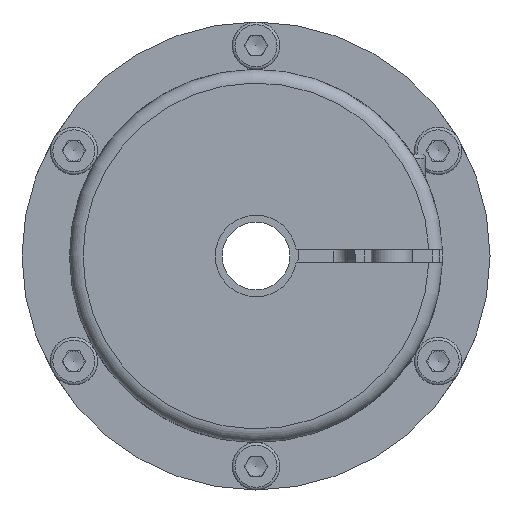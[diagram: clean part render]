
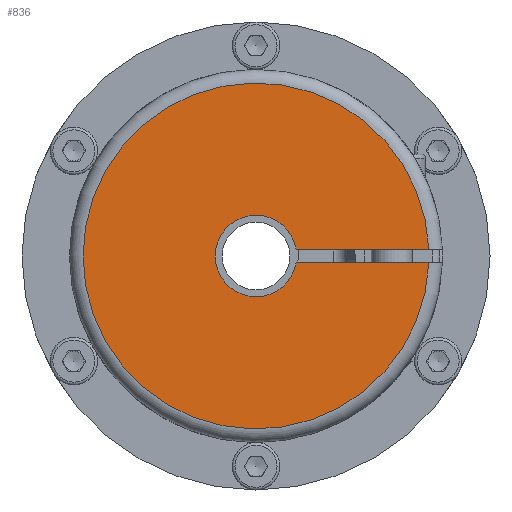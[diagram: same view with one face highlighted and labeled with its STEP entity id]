
A CAD part, left-side view. The second image highlights one B-rep face of the part: STEP entity #836.
In plain terms, the highlighted planar face has unit normal (-1, 0, 0).
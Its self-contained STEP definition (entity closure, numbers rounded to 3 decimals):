
#836 = ADVANCED_FACE( '', ( #2296 ), #2297, .T. );
#2296 = FACE_OUTER_BOUND( '', #4558, .T. );
#2297 = PLANE( '', #4559 );
#4558 = EDGE_LOOP( '', ( #7220, #7221, #7222, #7223 ) );
#4559 = AXIS2_PLACEMENT_3D( '', #7224, #7225, #7226 );
#7220 = ORIENTED_EDGE( '', *, *, #13264, .T. );
#7221 = ORIENTED_EDGE( '', *, *, #13265, .F. );
#7222 = ORIENTED_EDGE( '', *, *, #13266, .T. );
#7223 = ORIENTED_EDGE( '', *, *, #13267, .F. );
#7224 = CARTESIAN_POINT( '', ( -50.5, 0., 6. ) );
#7225 = DIRECTION( '', ( -1., 0., 0. ) );
#7226 = DIRECTION( '', ( 0., 0., 1. ) );
#13264 = EDGE_CURVE( '', #15842, #15843, #15844, .T. );
#13265 = EDGE_CURVE( '', #15845, #15843, #15846, .T. );
#13266 = EDGE_CURVE( '', #15845, #15847, #15848, .T. );
#13267 = EDGE_CURVE( '', #15842, #15847, #15849, .T. );
#15842 = VERTEX_POINT( '', #20160 );
#15843 = VERTEX_POINT( '', #20161 );
#15844 = CIRCLE( '', #20162, 6. );
#15845 = VERTEX_POINT( '', #20163 );
#15846 = LINE( '', #20164, #20165 );
#15847 = VERTEX_POINT( '', #20166 );
#15848 = CIRCLE( '', #20167, 25.5 );
#15849 = LINE( '', #20168, #20169 );
#20160 = CARTESIAN_POINT( '', ( -50.5, -5.916, -1. ) );
#20161 = CARTESIAN_POINT( '', ( -50.5, -5.916, 1. ) );
#20162 = AXIS2_PLACEMENT_3D( '', #26116, #26117, #26118 );
#20163 = CARTESIAN_POINT( '', ( -50.5, -25.48, 1. ) );
#20164 = CARTESIAN_POINT( '', ( -50.5, -29., 1. ) );
#20165 = VECTOR( '', #26119, 1000. );
#20166 = CARTESIAN_POINT( '', ( -50.5, -25.48, -1. ) );
#20167 = AXIS2_PLACEMENT_3D( '', #26120, #26121, #26122 );
#20168 = CARTESIAN_POINT( '', ( -50.5, 11., -1. ) );
#20169 = VECTOR( '', #26123, 1000. );
#26116 = CARTESIAN_POINT( '', ( -50.5, 0., 0. ) );
#26117 = DIRECTION( '', ( 1., 0., 0. ) );
#26118 = DIRECTION( '', ( 0., -1., 0. ) );
#26119 = DIRECTION( '', ( 0., 1., 0. ) );
#26120 = CARTESIAN_POINT( '', ( -50.5, 0., 0. ) );
#26121 = DIRECTION( '', ( -1., 0., 0. ) );
#26122 = DIRECTION( '', ( 0., 0., 1. ) );
#26123 = DIRECTION( '', ( 0., -1., 0. ) );
